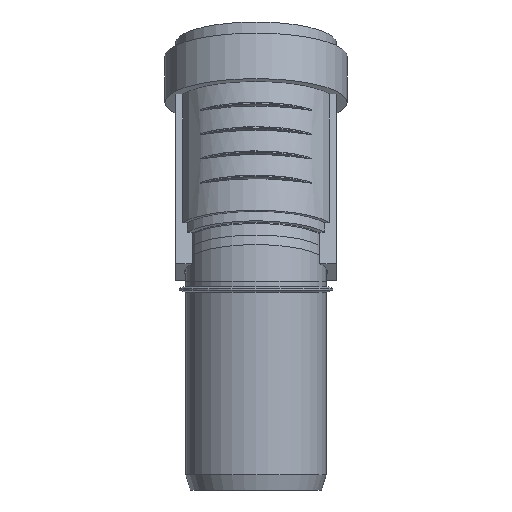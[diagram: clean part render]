
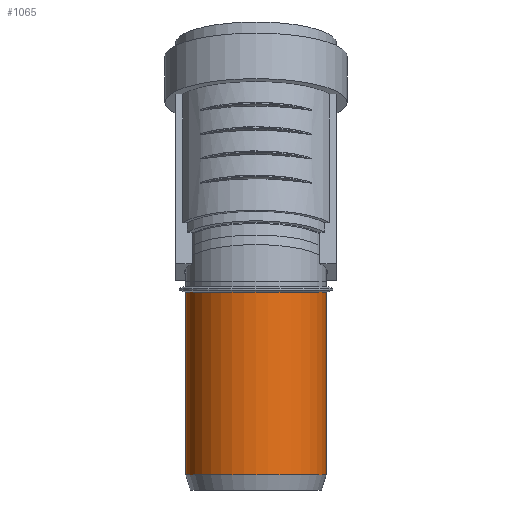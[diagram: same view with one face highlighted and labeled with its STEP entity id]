
A CAD part, left-side view. The second image highlights one B-rep face of the part: STEP entity #1065.
In plain terms, the highlighted cylindrical face has radius 16.075 mm (diameter 32.15 mm), a full revolution.
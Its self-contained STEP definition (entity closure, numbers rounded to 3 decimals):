
#190=CYLINDRICAL_SURFACE($,#1140,16.075);
#209=FACE_BOUND($,#314,.T.);
#252=FACE_OUTER_BOUND($,#313,.T.);
#313=EDGE_LOOP($,(#716));
#314=EDGE_LOOP($,(#717));
#414=CIRCLE($,#1138,16.075);
#416=CIRCLE($,#1141,16.075);
#469=VERTEX_POINT($,#1555);
#471=VERTEX_POINT($,#1560);
#575=EDGE_CURVE($,#469,#469,#414,.T.);
#577=EDGE_CURVE($,#471,#471,#416,.T.);
#716=ORIENTED_EDGE($,*,*,#577,.T.);
#717=ORIENTED_EDGE($,*,*,#575,.F.);
#1065=ADVANCED_FACE($,(#252,#209),#190,.T.);
#1138=AXIS2_PLACEMENT_3D($,#1556,#1267,#1268);
#1140=AXIS2_PLACEMENT_3D($,#1559,#1271,#1272);
#1141=AXIS2_PLACEMENT_3D($,#1561,#1273,#1274);
#1267=DIRECTION('center_axis',(0.,0.,-1.));
#1268=DIRECTION('ref_axis',(-1.,0.,0.));
#1271=DIRECTION('center_axis',(0.,0.,1.));
#1272=DIRECTION('ref_axis',(-1.,0.,0.));
#1273=DIRECTION('center_axis',(0.,0.,-1.));
#1274=DIRECTION('ref_axis',(-1.,0.,0.));
#1555=CARTESIAN_POINT('',(16.075,0.,3.5));
#1556=CARTESIAN_POINT('Origin',(0.,0.,3.5));
#1559=CARTESIAN_POINT('Origin',(0.,0.,0.));
#1560=CARTESIAN_POINT('',(-16.075,0.,45.3));
#1561=CARTESIAN_POINT('Origin',(0.,0.,45.3));
